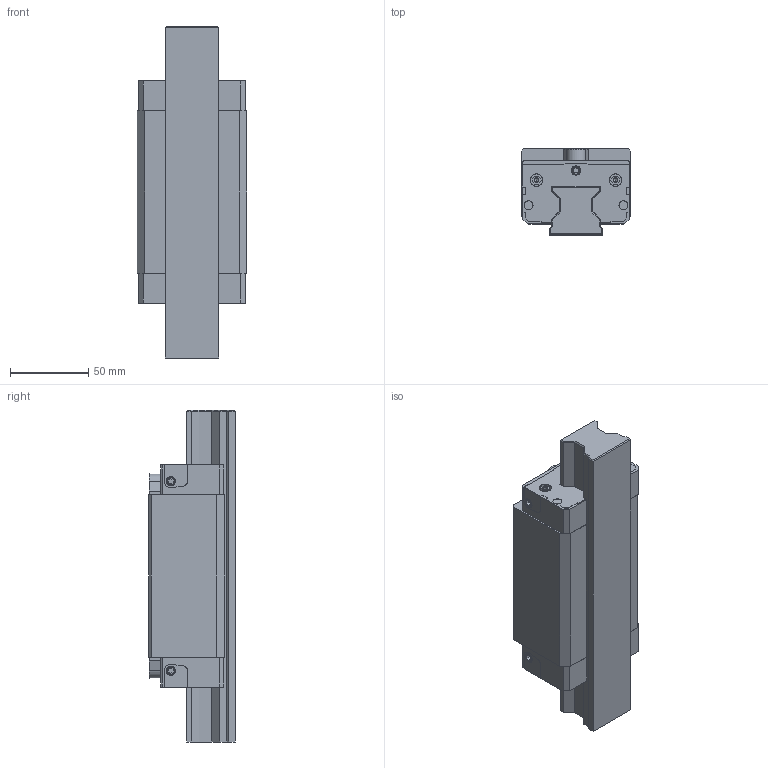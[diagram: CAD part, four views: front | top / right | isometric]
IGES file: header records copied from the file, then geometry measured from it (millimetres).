
Start section: 3D InterOp IGES (v. 2019 1.0.2), Spatial Corp. Copyright (c) 1999-2017.
Global section: file name: R1824_size35.igs; native system: Spatial Corp.; preprocessor: 3D InterOp GENERIC/IGES 3.0; author: Noname; organization: Noname; date: 20220630.112908; units: millimetre
Bounding box: 70 x 54.98 x 211.6 mm (x, y, z)
Surface area: 104037.2 mm2 (no closed solid volume)
Topology: 0 solids, 0 shells, 522 faces, 2700 edges, 2668 vertices
Faces by surface type: extrusion 322, revolution 200
